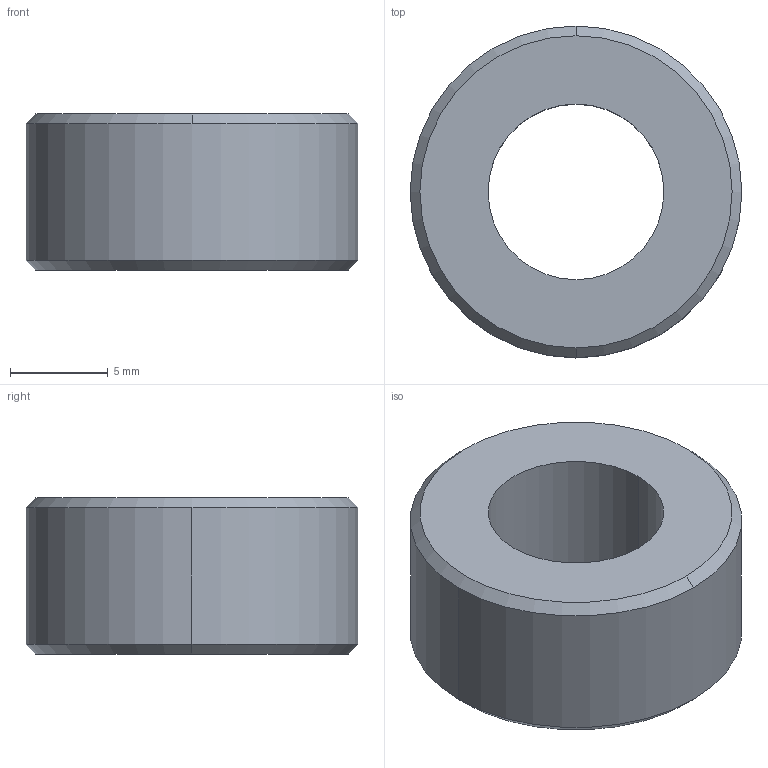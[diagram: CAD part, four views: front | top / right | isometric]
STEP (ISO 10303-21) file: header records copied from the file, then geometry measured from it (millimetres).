
FILE_DESCRIPTION (( 'STEP AP214' ), '1' );
FILE_NAME ('Guide intérieur.STEP', '2005-04-07T19:24:30', ( 'frantz' ), ( '' ), 'SwSTEP 2.0', 'SolidWorks 2004104', '' );
FILE_SCHEMA (( 'AUTOMOTIVE_DESIGN' ));
Length unit declared in the file: centimetre
Products named in the file (1): Guide intérieur
Bounding box: 17 x 17 x 8 mm (x, y, z)
Volume: 1293.8 mm3; surface area: 948.2 mm2
Topology: 1 solids, 1 shells, 10 faces, 22 edges, 14 vertices
Faces by surface type: cone 4, cylinder 4, plane 2
Entity records: 311 total; most frequent: DIRECTION 58, CARTESIAN_POINT 47, ORIENTED_EDGE 44, AXIS2_PLACEMENT_3D 25, EDGE_CURVE 22, VERTEX_POINT 14, CIRCLE 14, EDGE_LOOP 12
